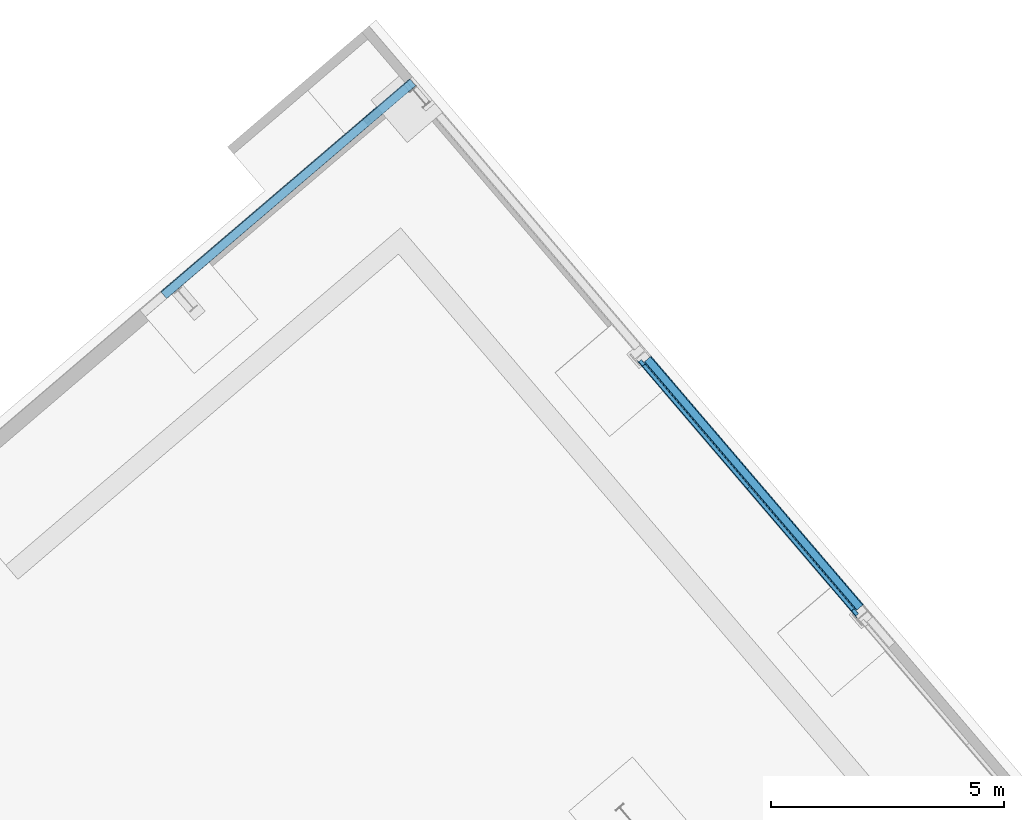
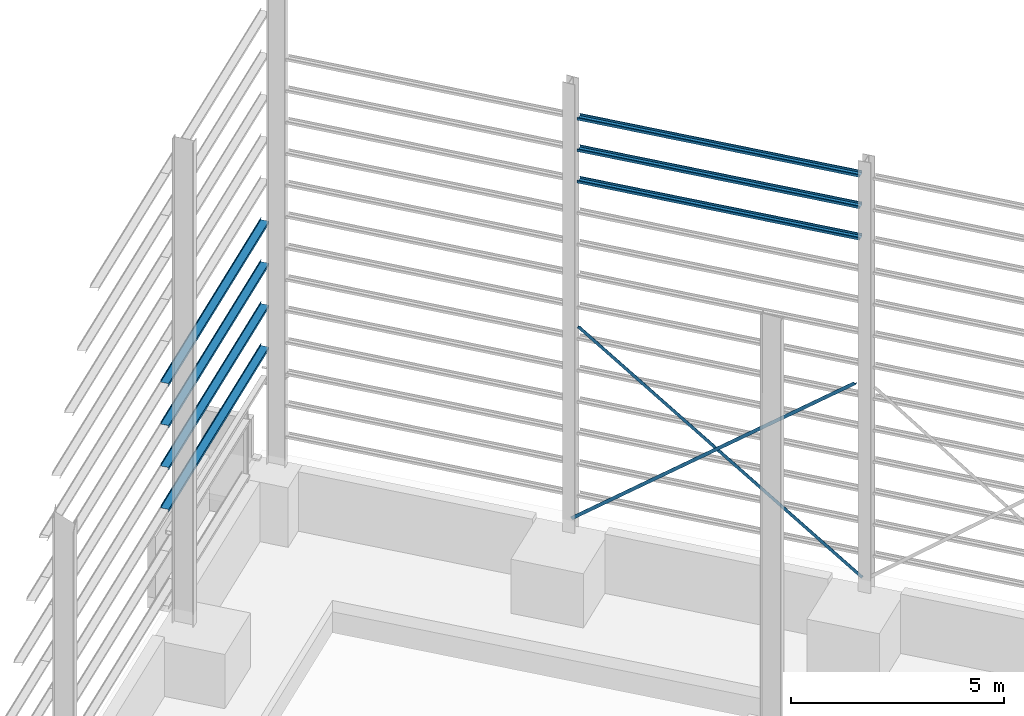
# One storey, part 27 of 41: 9 beams, 1 element without a shape of its own.
"""IFC2X3 building model written with IfcOpenShell, lengths in millimetres."""

from ifc_helpers import new_model, entity, si_unit, converted_unit, derived_unit, direction, frame, frame_2d, origin, place, context, subcontext, project, spatial, polyline, circle_curve, parameter, trimmed, segment, composite_curve, outline, extrude, material, type_object, element, aggregate, save


model = new_model("IFC2X3")

# Units and contexts
model_context = context("Model", 3, precision=0.01, world=origin(), true_north=direction((6.123031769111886e-17, 1.0)))
body_context = subcontext(model_context, "Body", "Model", "MODEL_VIEW")
ifc_project = project(units=[si_unit("LENGTHUNIT", "METRE", prefix="MILLI"), si_unit("AREAUNIT", "SQUARE_METRE"), si_unit("VOLUMEUNIT", "CUBIC_METRE"), converted_unit("PLANEANGLEUNIT", "DEGREE", entity("IfcRatioMeasure", 0.017453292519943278), si_unit("PLANEANGLEUNIT", "RADIAN"), dimensions=[0, 0, 0, 0, 0, 0, 0]), si_unit("MASSUNIT", "GRAM", prefix="KILO"), derived_unit("MASSDENSITYUNIT", [(si_unit("MASSUNIT", "GRAM", prefix="KILO"), 1), (si_unit("LENGTHUNIT", "METRE"), -3)]), derived_unit("MOMENTOFINERTIAUNIT", [(si_unit("LENGTHUNIT", "METRE"), 4)]), si_unit("TIMEUNIT", "SECOND"), si_unit("FREQUENCYUNIT", "HERTZ"), si_unit("THERMODYNAMICTEMPERATUREUNIT", "DEGREE_CELSIUS"), derived_unit("THERMALTRANSMITTANCEUNIT", [(si_unit("MASSUNIT", "GRAM", prefix="KILO"), 1), (si_unit("THERMODYNAMICTEMPERATUREUNIT", "KELVIN"), -1), (si_unit("TIMEUNIT", "SECOND"), -3)]), derived_unit("VOLUMETRICFLOWRATEUNIT", [(si_unit("LENGTHUNIT", "METRE"), 3), (si_unit("TIMEUNIT", "SECOND"), -1)]), derived_unit("MASSFLOWRATEUNIT", [(si_unit("MASSUNIT", "GRAM", prefix="KILO"), 1), (si_unit("TIMEUNIT", "SECOND"), -1)]), derived_unit("ROTATIONALFREQUENCYUNIT", [(si_unit("TIMEUNIT", "SECOND"), -1)]), si_unit("ELECTRICCURRENTUNIT", "AMPERE"), si_unit("ELECTRICVOLTAGEUNIT", "VOLT"), si_unit("POWERUNIT", "WATT"), si_unit("FORCEUNIT", "NEWTON", prefix="KILO"), si_unit("ILLUMINANCEUNIT", "LUX"), si_unit("LUMINOUSFLUXUNIT", "LUMEN"), si_unit("LUMINOUSINTENSITYUNIT", "CANDELA"), derived_unit("USERDEFINED", [(si_unit("MASSUNIT", "GRAM", prefix="KILO"), -1), (si_unit("LENGTHUNIT", "METRE"), -2), (si_unit("TIMEUNIT", "SECOND"), 3), (si_unit("LUMINOUSFLUXUNIT", "LUMEN"), 1)]), derived_unit("SOUNDPOWERUNIT", [(si_unit("MASSUNIT", "GRAM", prefix="KILO"), 1), (si_unit("LENGTHUNIT", "METRE"), 2), (si_unit("TIMEUNIT", "SECOND"), -3)]), derived_unit("LINEARVELOCITYUNIT", [(si_unit("LENGTHUNIT", "METRE"), 1), (si_unit("TIMEUNIT", "SECOND"), -1)]), si_unit("PRESSUREUNIT", "PASCAL"), derived_unit("USERDEFINED", [(si_unit("LENGTHUNIT", "METRE"), -2), (si_unit("MASSUNIT", "GRAM", prefix="KILO"), 1), (si_unit("TIMEUNIT", "SECOND"), -2)]), derived_unit("LINEARFORCEUNIT", [(si_unit("MASSUNIT", "GRAM", prefix="KILO"), 1), (si_unit("LENGTHUNIT", "METRE"), 1), (si_unit("TIMEUNIT", "SECOND"), -2), (si_unit("LENGTHUNIT", "METRE"), -1)]), derived_unit("PLANARFORCEUNIT", [(si_unit("MASSUNIT", "GRAM", prefix="KILO"), 1), (si_unit("LENGTHUNIT", "METRE"), 1), (si_unit("TIMEUNIT", "SECOND"), -2), (si_unit("LENGTHUNIT", "METRE"), -2)])], contexts=[model_context])

# Site, building, storey
site_placement = place(None, frame((962.4174930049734, -6014.433753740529, 0.0), z_axis=(0.0, 0.0, 1.0), x_axis=(0.7601792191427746, 0.649713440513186, 0.0)))
site = spatial("IfcSite", under=ifc_project, at=site_placement, Name="Default", CompositionType="ELEMENT")
building_placement = place(site_placement, origin())
building = spatial("IfcBuilding", under=site, at=building_placement, CompositionType="ELEMENT")
storey_placement = place(building_placement, origin())
storey = spatial("IfcBuildingStorey", under=building, at=storey_placement, Name="Datum", CompositionType="ELEMENT", Elevation=0.0)

# Beams
ifc_material_1 = material(Name="Metal - Steel - 300 MPa")
beam_type_1 = type_object("IfcBeamType", Name="ADSK_AU_EA-Equal Angles (AS 3679_1):90x90x10EA", PredefinedType="NOTDEFINED")
beam_1_placement = place(storey_placement, frame((185679.26020470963, -10942.719118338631, 5593.650569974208), z_axis=(0.0, 0.6162705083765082, 0.7875345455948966), x_axis=(0.0, 0.7875345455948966, -0.6162705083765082)))
element("IfcBeam", 1, at=beam_1_placement, inside=storey, type_object=beam_type_1, material=ifc_material_1, Name="ADSK_AU_EA-Equal Angles (AS 3679_1):90x90x10EA", ObjectType="ADSK_AU_EA-Equal Angles (AS 3679_1):90x90x10EA", context=body_context, shape_type="SweptSolid", body=[
    extrude(outline(composite_curve([segment(polyline([(29.222222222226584, -55.777777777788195), (34.22222222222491, -55.777777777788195)]), True, "CONTINUOUS"), segment(polyline([(34.22222222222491, -55.777777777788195), (34.22222222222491, 34.222222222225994)]), True, "CONTINUOUS"), segment(polyline([(34.22222222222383, 34.222222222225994), (-55.777777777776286, 34.222222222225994)]), True, "CONTINUOUS"), segment(polyline([(-55.777777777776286, 34.222222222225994), (-55.777777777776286, 29.2222222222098)]), True, "CONTINUOUS"), segment(trimmed(circle_curve(frame_2d((-50.77777777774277, 29.222222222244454), x_axis=(-1.0, 0.0)), 5.000000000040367), [parameter(0.0)], [parameter(89.99999999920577)], True, "PARAMETER"), True, "CONTINUOUS"), segment(polyline([(-50.777777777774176, 24.222222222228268), (16.2222222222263, 24.222222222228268)]), True, "CONTINUOUS"), segment(trimmed(circle_curve(frame_2d((16.222222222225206, 16.222222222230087), x_axis=(0.0, 1.0)), 8.00000000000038), [parameter(270.000000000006)], [parameter(0.0)], True, "PARAMETER"), False, "CONTINUOUS"), segment(polyline([(24.22222222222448, 16.222222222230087), (24.22222222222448, -50.77777777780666)]), True, "CONTINUOUS"), segment(trimmed(circle_curve(frame_2d((29.22222222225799, -50.77777777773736), x_axis=(-1.0, 0.0)), 5.0000000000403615), [parameter(0.0)], [parameter(89.99999999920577)], True, "PARAMETER"), True, "CONTINUOUS")], self_intersect=False)), frame((0.0, -8.522222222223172, -55.777777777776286), z_axis=(1.0, 0.0, 0.0), x_axis=(0.0, 0.0, -1.0)), (0.0, 0.0, 1.0), 8937.800000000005),
])
beam_2_placement = place(storey_placement, frame((185679.26020470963, -4129.190389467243, 5607.937265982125), z_axis=(0.0, -0.6163052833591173, 0.7875073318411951), x_axis=(0.0, -0.7875073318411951, -0.6163052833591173)))
element("IfcBeam", 2, at=beam_2_placement, inside=storey, type_object=beam_type_1, material=ifc_material_1, Name="ADSK_AU_EA-Equal Angles (AS 3679_1):90x90x10EA", ObjectType="ADSK_AU_EA-Equal Angles (AS 3679_1):90x90x10EA", context=body_context, shape_type="SweptSolid", body=[
    extrude(outline(composite_curve([segment(polyline([(-55.777777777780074, -34.222222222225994), (34.22222222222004, -34.222222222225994)]), True, "CONTINUOUS"), segment(polyline([(34.22222222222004, -34.222222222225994), (34.22222222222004, 55.777777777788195)]), True, "CONTINUOUS"), segment(polyline([(34.22222222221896, 55.777777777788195), (29.222222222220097, 55.777777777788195)]), True, "CONTINUOUS"), segment(trimmed(circle_curve(frame_2d((29.222222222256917, 50.77777777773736), x_axis=(0.0, 1.0)), 5.00000000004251), [parameter(0.0)], [parameter(89.99999999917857)], True, "PARAMETER"), True, "CONTINUOUS"), segment(polyline([(24.222222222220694, 50.77777777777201), (24.222222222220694, -16.222222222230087)]), True, "CONTINUOUS"), segment(trimmed(circle_curve(frame_2d((16.22222222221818, -16.222222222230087), x_axis=(1.0, 0.0)), 8.0000000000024), [parameter(270.0000000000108)], [parameter(0.0)], True, "PARAMETER"), False, "CONTINUOUS"), segment(polyline([(16.22222222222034, -24.222222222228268), (-50.77777777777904, -24.222222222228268)]), True, "CONTINUOUS"), segment(trimmed(circle_curve(frame_2d((-50.77777777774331, -29.222222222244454), x_axis=(0.0, 1.0)), 5.000000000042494), [parameter(0.0)], [parameter(89.99999999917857)], True, "PARAMETER"), True, "CONTINUOUS"), segment(polyline([(-55.777777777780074, -29.2222222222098), (-55.777777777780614, -34.222222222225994)]), True, "CONTINUOUS")], self_intersect=False)), frame((0.0, 8.522222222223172, -55.777777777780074), z_axis=(1.0, 0.0, 0.0), x_axis=(0.0, 0.0, -1.0)), (0.0, 0.0, 1.0), 8963.300000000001),
])

# Assembly, beams
assembly_placement = place(building_placement, origin())
assembly = element("IfcElementAssembly", 3, at=assembly_placement, inside=storey, Name="Structural Beam System:Structural Beam System 1", ObjectType="Structural Beam System:Structural Beam System 1", AssemblyPlace="NOTDEFINED", PredefinedType="BEAM_GRID")
ifc_material_2 = material(Name="Metal - Light Gauge")
beam_type_2 = type_object("IfcBeamType", Name="ADSK_AUS_Light Gauge-Joists:C20015", PredefinedType="NOTDEFINED")
beam_3_placement = place(building_placement, frame((185748.56020470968, -11068.428082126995, 11403.927665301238), z_axis=(0.0, 0.0, 1.0), x_axis=(0.0, 1.0, 0.0)))
beam_3 = element("IfcBeam", 4, at=beam_3_placement, type_object=beam_type_2, material=ifc_material_2, Name="ADSK_AUS_Light Gauge-Joists:C20015", ObjectType="ADSK_AUS_Light Gauge-Joists:C20015", context=body_context, shape_type="SweptSolid", body=[
    extrude(outline(composite_curve([segment(polyline([(-25.691849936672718, -101.50000000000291), (39.49184993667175, -101.50000000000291)]), True, "CONTINUOUS"), segment(trimmed(circle_curve(frame_2d((39.49184993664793, -98.8418499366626), x_axis=(0.0, -1.0)), 2.6581500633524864), [parameter(0.0)], [parameter(89.99999999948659)], True, "PARAMETER"), True, "CONTINUOUS"), segment(polyline([(42.15000000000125, -98.8418499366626), (42.15000000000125, 98.84184993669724)]), True, "CONTINUOUS"), segment(trimmed(circle_curve(frame_2d((39.49184993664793, 98.84184993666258), x_axis=(1.0, 0.0)), 2.6581500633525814), [parameter(0.0)], [parameter(89.99999999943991)], True, "PARAMETER"), True, "CONTINUOUS"), segment(polyline([(39.491849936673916, 101.50000000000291), (-25.691849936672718, 101.50000000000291)]), True, "CONTINUOUS"), segment(trimmed(circle_curve(frame_2d((-25.691849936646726, 98.84184993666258), x_axis=(0.0, 1.0)), 2.6581500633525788), [parameter(0.0)], [parameter(89.99999999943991)], True, "PARAMETER"), True, "CONTINUOUS"), segment(polyline([(-28.350000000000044, 98.84184993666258), (-28.350000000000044, 80.0)]), True, "CONTINUOUS"), segment(polyline([(-28.350000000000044, 80.0), (-26.850000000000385, 80.0)]), True, "CONTINUOUS"), segment(polyline([(-26.849999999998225, 80.0), (-26.849999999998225, 98.42934993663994)]), True, "CONTINUOUS"), segment(trimmed(circle_curve(frame_2d((-25.27934993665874, 98.4293499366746), x_axis=(-1.0, 0.0)), 1.5706500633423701), [parameter(270.00000000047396)], [parameter(0.0)], True, "PARAMETER"), False, "CONTINUOUS"), segment(polyline([(-25.27934993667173, 100.0), (39.079349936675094, 100.0)]), True, "CONTINUOUS"), segment(trimmed(circle_curve(frame_2d((39.07934993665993, 98.4293499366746), x_axis=(0.0, 1.0)), 1.5706500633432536), [parameter(270.0000000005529)], [parameter(0.0)], True, "PARAMETER"), False, "CONTINUOUS"), segment(polyline([(40.65000000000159, 98.4293499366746), (40.65000000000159, -98.4293499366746)]), True, "CONTINUOUS"), segment(trimmed(circle_curve(frame_2d((39.07934993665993, -98.4293499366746), x_axis=(1.0, 0.0)), 1.5706500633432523), [parameter(270.0000000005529)], [parameter(0.0)], True, "PARAMETER"), False, "CONTINUOUS"), segment(polyline([(39.079349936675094, -100.0), (-25.27934993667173, -100.0)]), True, "CONTINUOUS"), segment(trimmed(circle_curve(frame_2d((-25.279349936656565, -98.4293499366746), x_axis=(0.0, -1.0)), 1.570650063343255), [parameter(270.0000000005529)], [parameter(0.0)], True, "PARAMETER"), False, "CONTINUOUS"), segment(polyline([(-26.849999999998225, -98.4293499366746), (-26.849999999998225, -80.0)]), True, "CONTINUOUS"), segment(polyline([(-26.849999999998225, -80.0), (-28.349999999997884, -80.0)]), True, "CONTINUOUS"), segment(polyline([(-28.350000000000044, -80.0), (-28.350000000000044, -98.84184993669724)]), True, "CONTINUOUS"), segment(trimmed(circle_curve(frame_2d((-25.6918499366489, -98.8418499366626), x_axis=(-1.0, 0.0)), 2.658150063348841), [parameter(0.0)], [parameter(89.99999999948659)], True, "PARAMETER"), True, "CONTINUOUS")], self_intersect=False)), frame((13.168750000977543, -101.50000000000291, 42.15000000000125), z_axis=(1.0, 0.0, 0.0), x_axis=(0.0, 0.0, -1.0)), (0.0, 0.0, 1.0), 7021.000000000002),
])
beam_4_placement = place(building_placement, frame((185748.56020470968, -11068.428082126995, 10503.92766530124), z_axis=(0.0, 0.0, 1.0), x_axis=(0.0, 1.0, 0.0)))
beam_4 = element("IfcBeam", 5, at=beam_4_placement, type_object=beam_type_2, material=ifc_material_2, Name="ADSK_AUS_Light Gauge-Joists:C20015", ObjectType="ADSK_AUS_Light Gauge-Joists:C20015", context=body_context, shape_type="SweptSolid", body=[
    extrude(outline(composite_curve([segment(polyline([(-25.691849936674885, -101.50000000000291), (39.49184993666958, -101.50000000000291)]), True, "CONTINUOUS"), segment(trimmed(circle_curve(frame_2d((39.491849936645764, -98.8418499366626), x_axis=(0.0, -1.0)), 2.6581500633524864), [parameter(0.0)], [parameter(89.99999999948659)], True, "PARAMETER"), True, "CONTINUOUS"), segment(polyline([(42.14999999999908, -98.8418499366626), (42.14999999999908, 98.84184993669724)]), True, "CONTINUOUS"), segment(trimmed(circle_curve(frame_2d((39.491849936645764, 98.84184993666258), x_axis=(1.0, 0.0)), 2.6581500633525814), [parameter(0.0)], [parameter(89.99999999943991)], True, "PARAMETER"), True, "CONTINUOUS"), segment(polyline([(39.49184993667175, 101.50000000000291), (-25.691849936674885, 101.50000000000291)]), True, "CONTINUOUS"), segment(trimmed(circle_curve(frame_2d((-25.691849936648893, 98.84184993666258), x_axis=(0.0, 1.0)), 2.6581500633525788), [parameter(0.0)], [parameter(89.99999999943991)], True, "PARAMETER"), True, "CONTINUOUS"), segment(polyline([(-28.35000000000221, 98.84184993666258), (-28.35000000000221, 80.0)]), True, "CONTINUOUS"), segment(polyline([(-28.35000000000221, 80.0), (-26.850000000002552, 80.0)]), True, "CONTINUOUS"), segment(polyline([(-26.850000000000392, 80.0), (-26.850000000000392, 98.42934993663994)]), True, "CONTINUOUS"), segment(trimmed(circle_curve(frame_2d((-25.279349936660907, 98.4293499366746), x_axis=(-1.0, 0.0)), 1.5706500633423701), [parameter(270.00000000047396)], [parameter(0.0)], True, "PARAMETER"), False, "CONTINUOUS"), segment(polyline([(-25.279349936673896, 100.0), (39.079349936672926, 100.0)]), True, "CONTINUOUS"), segment(trimmed(circle_curve(frame_2d((39.07934993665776, 98.4293499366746), x_axis=(0.0, 1.0)), 1.5706500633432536), [parameter(270.0000000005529)], [parameter(0.0)], True, "PARAMETER"), False, "CONTINUOUS"), segment(polyline([(40.64999999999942, 98.4293499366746), (40.64999999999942, -98.4293499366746)]), True, "CONTINUOUS"), segment(trimmed(circle_curve(frame_2d((39.07934993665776, -98.4293499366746), x_axis=(1.0, 0.0)), 1.5706500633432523), [parameter(270.0000000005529)], [parameter(0.0)], True, "PARAMETER"), False, "CONTINUOUS"), segment(polyline([(39.079349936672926, -100.0), (-25.279349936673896, -100.0)]), True, "CONTINUOUS"), segment(trimmed(circle_curve(frame_2d((-25.279349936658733, -98.4293499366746), x_axis=(0.0, -1.0)), 1.570650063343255), [parameter(270.0000000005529)], [parameter(0.0)], True, "PARAMETER"), False, "CONTINUOUS"), segment(polyline([(-26.850000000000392, -98.4293499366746), (-26.850000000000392, -80.0)]), True, "CONTINUOUS"), segment(polyline([(-26.850000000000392, -80.0), (-28.35000000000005, -80.0)]), True, "CONTINUOUS"), segment(polyline([(-28.35000000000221, -80.0), (-28.35000000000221, -98.84184993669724)]), True, "CONTINUOUS"), segment(trimmed(circle_curve(frame_2d((-25.691849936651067, -98.8418499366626), x_axis=(-1.0, 0.0)), 2.658150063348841), [parameter(0.0)], [parameter(89.99999999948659)], True, "PARAMETER"), True, "CONTINUOUS")], self_intersect=False)), frame((13.168750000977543, -101.50000000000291, 42.14999999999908), z_axis=(1.0, 0.0, 0.0), x_axis=(0.0, 0.0, -1.0)), (0.0, 0.0, 1.0), 7021.000000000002),
])
beam_5_placement = place(building_placement, frame((185748.56020470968, -11068.428082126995, 9603.927665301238), z_axis=(0.0, 0.0, 1.0), x_axis=(0.0, 1.0, 0.0)))
beam_5 = element("IfcBeam", 6, at=beam_5_placement, type_object=beam_type_2, material=ifc_material_2, Name="ADSK_AUS_Light Gauge-Joists:C20015", ObjectType="ADSK_AUS_Light Gauge-Joists:C20015", context=body_context, shape_type="SweptSolid", body=[
    extrude(outline(composite_curve([segment(polyline([(-25.691849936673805, -101.50000000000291), (39.49184993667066, -101.50000000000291)]), True, "CONTINUOUS"), segment(trimmed(circle_curve(frame_2d((39.491849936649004, -98.8418499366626), x_axis=(0.0, -1.0)), 2.658150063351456), [parameter(0.0)], [parameter(89.99999999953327)], True, "PARAMETER"), True, "CONTINUOUS"), segment(polyline([(42.15000000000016, -98.8418499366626), (42.14999999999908, 98.84184993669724)]), True, "CONTINUOUS"), segment(trimmed(circle_curve(frame_2d((39.491849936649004, 98.84184993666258), x_axis=(1.0, 0.0)), 2.658150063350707), [parameter(0.0)], [parameter(89.99999999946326)], True, "PARAMETER"), True, "CONTINUOUS"), segment(polyline([(39.491849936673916, 101.50000000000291), (-25.691849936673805, 101.50000000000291)]), True, "CONTINUOUS"), segment(trimmed(circle_curve(frame_2d((-25.691849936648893, 98.84184993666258), x_axis=(0.0, 1.0)), 2.658150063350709), [parameter(0.0)], [parameter(89.99999999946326)], True, "PARAMETER"), True, "CONTINUOUS"), segment(polyline([(-28.35000000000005, 98.84184993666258), (-28.35000000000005, 80.0)]), True, "CONTINUOUS"), segment(polyline([(-28.35000000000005, 80.0), (-26.850000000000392, 80.0)]), True, "CONTINUOUS"), segment(polyline([(-26.850000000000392, 80.0), (-26.850000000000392, 98.42934993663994)]), True, "CONTINUOUS"), segment(trimmed(circle_curve(frame_2d((-25.279349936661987, 98.4293499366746), x_axis=(-1.0, 0.0)), 1.570650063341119), [parameter(270.00000000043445)], [parameter(0.0)], True, "PARAMETER"), False, "CONTINUOUS"), segment(polyline([(-25.279349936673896, 100.0), (39.079349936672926, 100.0)]), True, "CONTINUOUS"), segment(trimmed(circle_curve(frame_2d((39.0793499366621, 98.4293499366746), x_axis=(0.0, 1.0)), 1.570650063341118), [parameter(270.00000000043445)], [parameter(0.0)], True, "PARAMETER"), False, "CONTINUOUS"), segment(polyline([(40.6500000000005, 98.4293499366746), (40.65000000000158, -98.4293499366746)]), True, "CONTINUOUS"), segment(trimmed(circle_curve(frame_2d((39.0793499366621, -98.4293499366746), x_axis=(1.0, 0.0)), 1.570650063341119), [parameter(270.00000000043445)], [parameter(0.0)], True, "PARAMETER"), False, "CONTINUOUS"), segment(polyline([(39.07934993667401, -100.0), (-25.279349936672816, -100.0)]), True, "CONTINUOUS"), segment(trimmed(circle_curve(frame_2d((-25.279349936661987, -98.4293499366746), x_axis=(0.0, -1.0)), 1.570650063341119), [parameter(270.00000000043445)], [parameter(0.0)], True, "PARAMETER"), False, "CONTINUOUS"), segment(polyline([(-26.850000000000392, -98.4293499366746), (-26.850000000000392, -80.0)]), True, "CONTINUOUS"), segment(polyline([(-26.850000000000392, -80.0), (-28.35000000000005, -80.0)]), True, "CONTINUOUS"), segment(polyline([(-28.35000000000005, -80.0), (-28.35000000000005, -98.84184993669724)]), True, "CONTINUOUS"), segment(trimmed(circle_curve(frame_2d((-25.691849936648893, -98.8418499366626), x_axis=(-1.0, 0.0)), 2.6581500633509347), [parameter(0.0)], [parameter(89.99999999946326)], True, "PARAMETER"), True, "CONTINUOUS")], self_intersect=False)), frame((13.168750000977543, -101.50000000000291, 42.15000000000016), z_axis=(1.0, 0.0, 0.0), x_axis=(0.0, 0.0, -1.0)), (0.0, 0.0, 1.0), 7021.000000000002),
])
aggregate(assembly, [beam_3, beam_4, beam_5])

# Beams
ifc_material_3 = material(Name="Metal - Steel - 345 MPa")
beam_type_3 = type_object("IfcBeamType", Name="ADSK_AU_Light Gauge-Zeds:Z20015", PredefinedType="NOTDEFINED")
beam_6_placement = place(building_placement, frame((178838.96020471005, 3872.0719178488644, 6626.799999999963)))
element("IfcBeam", 7, at=beam_6_placement, inside=storey, type_object=beam_type_3, material=ifc_material_3, Name="ADSK_AU_Light Gauge-Zeds:Z20015", ObjectType="ADSK_AU_Light Gauge-Zeds:Z20015", context=body_context, shape_type="SweptSolid", body=[
    extrude(outline(composite_curve([segment(polyline([(-1.0, -101.50000000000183), (69.0, -101.50000000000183)]), True, "CONTINUOUS"), segment(trimmed(circle_curve(frame_2d((69.0, -98.0), x_axis=(0.0, -1.0)), 3.499999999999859), [parameter(0.0)], [parameter(90.00000000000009)], True, "PARAMETER"), True, "CONTINUOUS"), segment(polyline([(72.50000000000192, -98.0), (72.50000000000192, -81.50000000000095)]), True, "CONTINUOUS"), segment(polyline([(72.50000000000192, -81.50000000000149), (71.0, -81.50000000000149)]), True, "CONTINUOUS"), segment(polyline([(71.0, -81.50000000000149), (71.0, -98.0)]), True, "CONTINUOUS"), segment(trimmed(circle_curve(frame_2d((69.0, -98.0), x_axis=(1.0, 0.0)), 1.9999999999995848), [parameter(269.99999999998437)], [parameter(0.0)], True, "PARAMETER"), False, "CONTINUOUS"), segment(polyline([(69.0, -100.0), (-1.0, -100.0)]), True, "CONTINUOUS"), segment(trimmed(circle_curve(frame_2d((-1.0, -98.0), x_axis=(0.0, -1.0)), 1.999999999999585), [parameter(269.99999999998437)], [parameter(0.0)], True, "PARAMETER"), False, "CONTINUOUS"), segment(polyline([(-3.0, -98.0), (-3.0, 98.0)]), True, "CONTINUOUS"), segment(trimmed(circle_curve(frame_2d((-6.499999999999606, 98.0), x_axis=(1.0, 0.0)), 3.5000000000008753), [parameter(0.0)], [parameter(89.9999999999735)], True, "PARAMETER"), True, "CONTINUOUS"), segment(polyline([(-6.499999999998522, 101.4999999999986), (-64.0, 101.4999999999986)]), True, "CONTINUOUS"), segment(trimmed(circle_curve(frame_2d((-64.0, 98.0), x_axis=(0.0, 1.0)), 3.49999999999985), [parameter(0.0)], [parameter(90.00000000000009)], True, "PARAMETER"), True, "CONTINUOUS"), segment(polyline([(-67.49999999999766, 98.0), (-67.49999999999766, 81.49999999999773)]), True, "CONTINUOUS"), segment(polyline([(-67.49999999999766, 81.49999999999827), (-66.0, 81.49999999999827)]), True, "CONTINUOUS"), segment(polyline([(-66.0, 81.49999999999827), (-66.0, 98.0)]), True, "CONTINUOUS"), segment(trimmed(circle_curve(frame_2d((-64.0, 98.0), x_axis=(-1.0, 0.0)), 1.9999999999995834), [parameter(269.99999999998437)], [parameter(0.0)], True, "PARAMETER"), False, "CONTINUOUS"), segment(polyline([(-64.0, 100.0), (-6.499999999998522, 100.0)]), True, "CONTINUOUS"), segment(trimmed(circle_curve(frame_2d((-6.499999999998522, 98.0), x_axis=(0.0, 1.0)), 1.9999999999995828), [parameter(269.99999999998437)], [parameter(0.0)], True, "PARAMETER"), False, "CONTINUOUS"), segment(polyline([(-4.499999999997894, 98.0), (-4.499999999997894, -98.0)]), True, "CONTINUOUS"), segment(trimmed(circle_curve(frame_2d((-1.0, -98.0), x_axis=(-1.0, 0.0)), 3.499999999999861), [parameter(0.0)], [parameter(90.00000000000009)], True, "PARAMETER"), True, "CONTINUOUS")], self_intersect=False)), frame((0.14999999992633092, -101.50000000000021, -4.499999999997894), z_axis=(1.0, 0.0, 0.0), x_axis=(0.0, 0.0, -1.0)), (0.0, 0.0, 1.0), 7039.999999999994),
])
beam_7_placement = place(building_placement, frame((178838.96020471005, 3872.0719178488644, 5426.499999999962)))
element("IfcBeam", 8, at=beam_7_placement, inside=storey, type_object=beam_type_3, material=ifc_material_3, Name="ADSK_AU_Light Gauge-Zeds:Z20015", ObjectType="ADSK_AU_Light Gauge-Zeds:Z20015", context=body_context, shape_type="SweptSolid", body=[
    extrude(outline(composite_curve([segment(polyline([(-1.0, -101.50000000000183), (69.0, -101.50000000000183)]), True, "CONTINUOUS"), segment(trimmed(circle_curve(frame_2d((69.0, -98.0), x_axis=(0.0, -1.0)), 3.499999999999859), [parameter(0.0)], [parameter(90.00000000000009)], True, "PARAMETER"), True, "CONTINUOUS"), segment(polyline([(72.50000000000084, -98.0), (72.50000000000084, -81.50000000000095)]), True, "CONTINUOUS"), segment(polyline([(72.50000000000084, -81.50000000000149), (71.0, -81.50000000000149)]), True, "CONTINUOUS"), segment(polyline([(71.0, -81.50000000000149), (71.0, -98.0)]), True, "CONTINUOUS"), segment(trimmed(circle_curve(frame_2d((69.0, -98.0), x_axis=(1.0, 0.0)), 1.9999999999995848), [parameter(269.99999999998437)], [parameter(0.0)], True, "PARAMETER"), False, "CONTINUOUS"), segment(polyline([(69.0, -100.0), (-1.0, -100.0)]), True, "CONTINUOUS"), segment(trimmed(circle_curve(frame_2d((-1.0, -98.0), x_axis=(0.0, -1.0)), 1.999999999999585), [parameter(269.99999999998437)], [parameter(0.0)], True, "PARAMETER"), False, "CONTINUOUS"), segment(polyline([(-3.0, -98.0), (-3.0, 98.0)]), True, "CONTINUOUS"), segment(trimmed(circle_curve(frame_2d((-6.5000000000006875, 98.0), x_axis=(1.0, 0.0)), 3.5000000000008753), [parameter(0.0)], [parameter(89.9999999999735)], True, "PARAMETER"), True, "CONTINUOUS"), segment(polyline([(-6.499999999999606, 101.4999999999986), (-64.0, 101.4999999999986)]), True, "CONTINUOUS"), segment(trimmed(circle_curve(frame_2d((-64.0, 98.0), x_axis=(0.0, 1.0)), 3.49999999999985), [parameter(0.0)], [parameter(90.00000000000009)], True, "PARAMETER"), True, "CONTINUOUS"), segment(polyline([(-67.49999999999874, 98.0), (-67.49999999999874, 81.49999999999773)]), True, "CONTINUOUS"), segment(polyline([(-67.49999999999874, 81.49999999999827), (-66.0, 81.49999999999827)]), True, "CONTINUOUS"), segment(polyline([(-66.0, 81.49999999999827), (-66.0, 98.0)]), True, "CONTINUOUS"), segment(trimmed(circle_curve(frame_2d((-64.0, 98.0), x_axis=(-1.0, 0.0)), 1.9999999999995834), [parameter(269.99999999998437)], [parameter(0.0)], True, "PARAMETER"), False, "CONTINUOUS"), segment(polyline([(-64.0, 100.0), (-6.499999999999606, 100.0)]), True, "CONTINUOUS"), segment(trimmed(circle_curve(frame_2d((-6.499999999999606, 98.0), x_axis=(0.0, 1.0)), 1.9999999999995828), [parameter(269.99999999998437)], [parameter(0.0)], True, "PARAMETER"), False, "CONTINUOUS"), segment(polyline([(-4.499999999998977, 98.0), (-4.499999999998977, -98.0)]), True, "CONTINUOUS"), segment(trimmed(circle_curve(frame_2d((-1.0, -98.0), x_axis=(-1.0, 0.0)), 3.499999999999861), [parameter(0.0)], [parameter(90.00000000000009)], True, "PARAMETER"), True, "CONTINUOUS")], self_intersect=False)), frame((0.14999999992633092, -101.50000000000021, -4.499999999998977), z_axis=(1.0, 0.0, 0.0), x_axis=(0.0, 0.0, -1.0)), (0.0, 0.0, 1.0), 7039.999999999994),
])
beam_8_placement = place(building_placement, frame((178838.96020471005, 3872.0719178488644, 4226.499999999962)))
element("IfcBeam", 9, at=beam_8_placement, inside=storey, type_object=beam_type_3, material=ifc_material_3, Name="ADSK_AU_Light Gauge-Zeds:Z20015", ObjectType="ADSK_AU_Light Gauge-Zeds:Z20015", context=body_context, shape_type="SweptSolid", body=[
    extrude(outline(composite_curve([segment(polyline([(-1.0, -101.50000000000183), (69.0, -101.50000000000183)]), True, "CONTINUOUS"), segment(trimmed(circle_curve(frame_2d((69.0, -98.0), x_axis=(0.0, -1.0)), 3.4999999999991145), [parameter(0.0)], [parameter(90.00000000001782)], True, "PARAMETER"), True, "CONTINUOUS"), segment(polyline([(72.5000000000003, -98.0), (72.5000000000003, -81.50000000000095)]), True, "CONTINUOUS"), segment(polyline([(72.5000000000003, -81.50000000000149), (71.0, -81.50000000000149)]), True, "CONTINUOUS"), segment(polyline([(71.0, -81.50000000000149), (71.0, -98.0)]), True, "CONTINUOUS"), segment(trimmed(circle_curve(frame_2d((69.0, -98.0), x_axis=(1.0, 0.0)), 2.000000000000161), [parameter(269.9999999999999)], [parameter(0.0)], True, "PARAMETER"), False, "CONTINUOUS"), segment(polyline([(69.0, -100.0), (-1.0, -100.0)]), True, "CONTINUOUS"), segment(trimmed(circle_curve(frame_2d((-1.0, -98.0), x_axis=(0.0, -1.0)), 2.0000000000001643), [parameter(269.9999999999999)], [parameter(0.0)], True, "PARAMETER"), False, "CONTINUOUS"), segment(polyline([(-3.0, -98.0), (-3.0, 98.0)]), True, "CONTINUOUS"), segment(trimmed(circle_curve(frame_2d((-6.500000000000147, 98.0), x_axis=(1.0, 0.0)), 3.5000000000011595), [parameter(0.0)], [parameter(89.99999999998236)], True, "PARAMETER"), True, "CONTINUOUS"), segment(polyline([(-6.499999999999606, 101.4999999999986), (-64.0, 101.4999999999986)]), True, "CONTINUOUS"), segment(trimmed(circle_curve(frame_2d((-64.0, 98.0), x_axis=(0.0, 1.0)), 3.49999999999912), [parameter(0.0)], [parameter(90.00000000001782)], True, "PARAMETER"), True, "CONTINUOUS"), segment(polyline([(-67.49999999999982, 98.0), (-67.49999999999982, 81.49999999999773)]), True, "CONTINUOUS"), segment(polyline([(-67.49999999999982, 81.49999999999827), (-66.0, 81.49999999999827)]), True, "CONTINUOUS"), segment(polyline([(-66.0, 81.49999999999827), (-66.0, 98.0)]), True, "CONTINUOUS"), segment(trimmed(circle_curve(frame_2d((-64.0, 98.0), x_axis=(-1.0, 0.0)), 2.0000000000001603), [parameter(269.9999999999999)], [parameter(0.0)], True, "PARAMETER"), False, "CONTINUOUS"), segment(polyline([(-64.0, 100.0), (-6.499999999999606, 100.0)]), True, "CONTINUOUS"), segment(trimmed(circle_curve(frame_2d((-6.499999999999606, 98.0), x_axis=(0.0, 1.0)), 2.000000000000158), [parameter(269.9999999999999)], [parameter(0.0)], True, "PARAMETER"), False, "CONTINUOUS"), segment(polyline([(-4.499999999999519, 98.0), (-4.499999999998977, -98.0)]), True, "CONTINUOUS"), segment(trimmed(circle_curve(frame_2d((-1.0, -98.0), x_axis=(-1.0, 0.0)), 3.499999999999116), [parameter(0.0)], [parameter(90.00000000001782)], True, "PARAMETER"), True, "CONTINUOUS")], self_intersect=False)), frame((0.14999999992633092, -101.50000000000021, -4.499999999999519), z_axis=(1.0, 0.0, 0.0), x_axis=(0.0, 0.0, -1.0)), (0.0, 0.0, 1.0), 7039.999999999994),
])
beam_9_placement = place(building_placement, frame((178838.96020471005, 3872.0719178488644, 3028.6999999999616)))
element("IfcBeam", 10, at=beam_9_placement, inside=storey, type_object=beam_type_3, material=ifc_material_3, Name="ADSK_AU_Light Gauge-Zeds:Z20015", ObjectType="ADSK_AU_Light Gauge-Zeds:Z20015", context=body_context, shape_type="SweptSolid", body=[
    extrude(outline(composite_curve([segment(polyline([(-1.0, -101.50000000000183), (69.0, -101.50000000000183)]), True, "CONTINUOUS"), segment(trimmed(circle_curve(frame_2d((69.0, -98.0), x_axis=(0.0, -1.0)), 3.4999999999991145), [parameter(0.0)], [parameter(90.00000000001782)], True, "PARAMETER"), True, "CONTINUOUS"), segment(polyline([(72.5000000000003, -98.0), (72.5000000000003, -81.50000000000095)]), True, "CONTINUOUS"), segment(polyline([(72.5000000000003, -81.50000000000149), (71.0, -81.50000000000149)]), True, "CONTINUOUS"), segment(polyline([(71.0, -81.50000000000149), (71.0, -98.0)]), True, "CONTINUOUS"), segment(trimmed(circle_curve(frame_2d((69.0, -98.0), x_axis=(1.0, 0.0)), 2.000000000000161), [parameter(269.9999999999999)], [parameter(0.0)], True, "PARAMETER"), False, "CONTINUOUS"), segment(polyline([(69.0, -100.0), (-1.0, -100.0)]), True, "CONTINUOUS"), segment(trimmed(circle_curve(frame_2d((-1.0, -98.0), x_axis=(0.0, -1.0)), 2.0000000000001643), [parameter(269.9999999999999)], [parameter(0.0)], True, "PARAMETER"), False, "CONTINUOUS"), segment(polyline([(-3.0, -98.0), (-3.0, 98.0)]), True, "CONTINUOUS"), segment(trimmed(circle_curve(frame_2d((-6.500000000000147, 98.0), x_axis=(1.0, 0.0)), 3.5000000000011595), [parameter(0.0)], [parameter(89.99999999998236)], True, "PARAMETER"), True, "CONTINUOUS"), segment(polyline([(-6.499999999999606, 101.4999999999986), (-64.0, 101.4999999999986)]), True, "CONTINUOUS"), segment(trimmed(circle_curve(frame_2d((-64.0, 98.0), x_axis=(0.0, 1.0)), 3.49999999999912), [parameter(0.0)], [parameter(90.00000000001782)], True, "PARAMETER"), True, "CONTINUOUS"), segment(polyline([(-67.49999999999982, 98.0), (-67.49999999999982, 81.49999999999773)]), True, "CONTINUOUS"), segment(polyline([(-67.49999999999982, 81.49999999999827), (-66.0, 81.49999999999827)]), True, "CONTINUOUS"), segment(polyline([(-66.0, 81.49999999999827), (-66.0, 98.0)]), True, "CONTINUOUS"), segment(trimmed(circle_curve(frame_2d((-64.0, 98.0), x_axis=(-1.0, 0.0)), 2.0000000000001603), [parameter(269.9999999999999)], [parameter(0.0)], True, "PARAMETER"), False, "CONTINUOUS"), segment(polyline([(-64.0, 100.0), (-6.499999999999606, 100.0)]), True, "CONTINUOUS"), segment(trimmed(circle_curve(frame_2d((-6.499999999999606, 98.0), x_axis=(0.0, 1.0)), 2.000000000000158), [parameter(269.9999999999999)], [parameter(0.0)], True, "PARAMETER"), False, "CONTINUOUS"), segment(polyline([(-4.499999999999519, 98.0), (-4.499999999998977, -98.0)]), True, "CONTINUOUS"), segment(trimmed(circle_curve(frame_2d((-1.0, -98.0), x_axis=(-1.0, 0.0)), 3.499999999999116), [parameter(0.0)], [parameter(90.00000000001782)], True, "PARAMETER"), True, "CONTINUOUS")], self_intersect=False)), frame((0.14999999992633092, -101.50000000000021, -4.499999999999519), z_axis=(1.0, 0.0, 0.0), x_axis=(0.0, 0.0, -1.0)), (0.0, 0.0, 1.0), 7039.999999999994),
])

save(model, "model.ifc")
